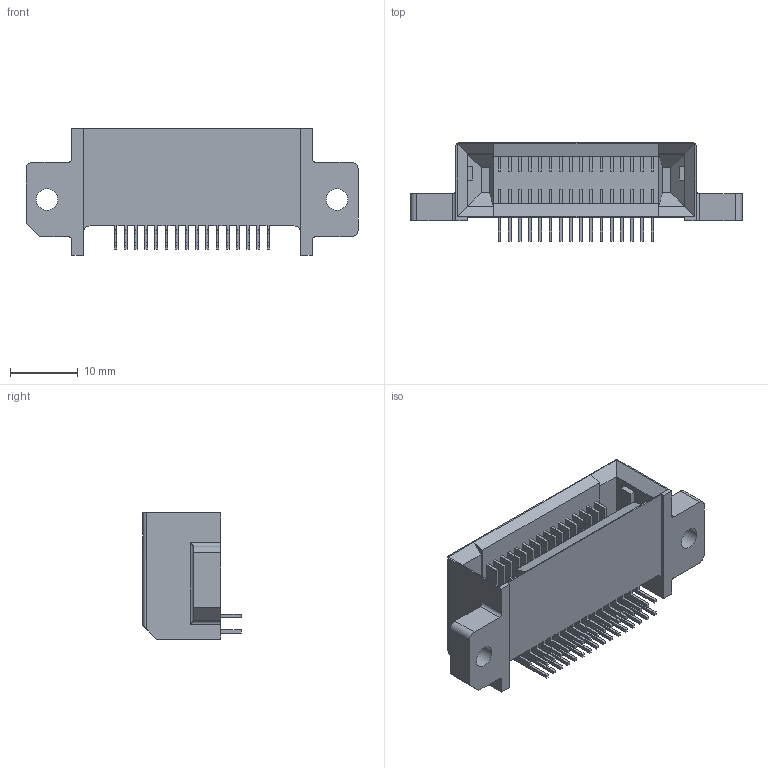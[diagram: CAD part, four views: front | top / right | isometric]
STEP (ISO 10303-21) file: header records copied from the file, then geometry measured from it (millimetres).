
FILE_DESCRIPTION(('Creo Elements/Direct Modeling STEP Export'),'2;1');
FILE_NAME('P3E772_FAS11-032L.stp','2024-04-16T15:07:15',(''),(''),'Creo Elements/Direct Modeling STEP processor for AP214 (Solid Model)','Creo Elements/Direct Modeling 20.6 25-Mar-2023 (C) Parametric Technology GmbH','');
FILE_SCHEMA(('AUTOMOTIVE_DESIGN { 1 0 10303 214 1 1 1 1 }'));
Length unit declared in the file: millimetre
Products named in the file (2): FAS11-032L
Assembly tree (1 placements, depth 2):
  FAS11-032L
    FAS11-032L
Bounding box: 48.9 x 14.5 x 18.6 mm (x, y, z)
Volume: 3932.8 mm3; surface area: 5889.4 mm2
Topology: 1 solids, 1 shells, 479 faces, 1356 edges, 896 vertices
Faces by surface type: plane 462, cylinder 17
Entity records: 14697 total; most frequent: ORIENTED_EDGE 2712, CARTESIAN_POINT 2614, DIRECTION 2161, EDGE_CURVE 1356, VECTOR 1275, LINE 1275, VERTEX_POINT 896, EDGE_LOOP 500
